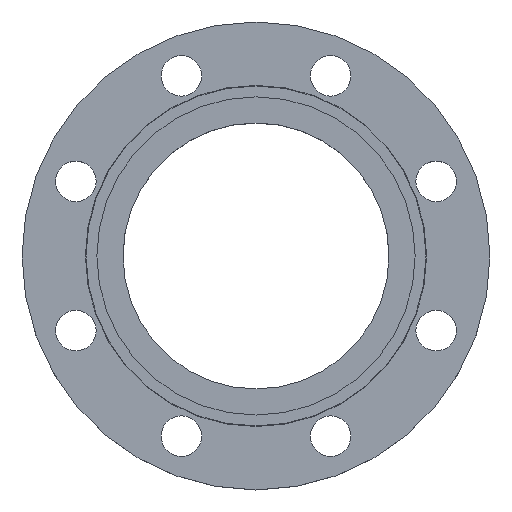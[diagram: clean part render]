
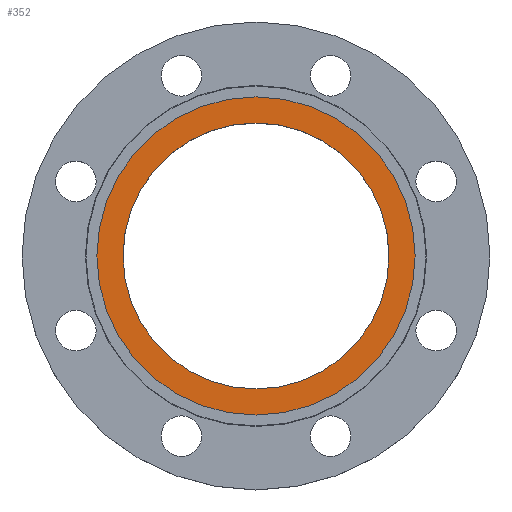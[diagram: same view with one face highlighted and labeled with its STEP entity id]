
A CAD part, top view. The second image highlights one B-rep face of the part: STEP entity #352.
In plain terms, the highlighted planar face has unit normal (0, 0, 1).
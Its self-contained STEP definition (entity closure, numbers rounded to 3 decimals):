
#2 = DIRECTION ( 'NONE',  ( 1., 0., 0. ) ) ;
#3 = DIRECTION ( 'NONE',  ( 0., 0., 1. ) ) ;
#4 = CARTESIAN_POINT ( 'NONE',  ( 102., 0., -4.5 ) ) ;
#5 = PLANE ( 'NONE',  #258 ) ;
#6 = FACE_OUTER_BOUND ( 'NONE', #208, .T. ) ;
#7 = FACE_BOUND ( 'NONE', #243, .T. ) ;
#45 = CIRCLE ( 'NONE', #99, 102. ) ;
#50 = AXIS2_PLACEMENT_3D ( 'NONE', #767, #708, #686 ) ;
#54 = CARTESIAN_POINT ( 'NONE',  ( -85.25, 0., -4.5 ) ) ;
#81 = CIRCLE ( 'NONE', #298, 85.25 ) ;
#93 = CARTESIAN_POINT ( 'NONE',  ( 0., 0., -4.5 ) ) ;
#97 = CIRCLE ( 'NONE', #50, 102. ) ;
#99 = AXIS2_PLACEMENT_3D ( 'NONE', #671, #662, #682 ) ;
#105 = DIRECTION ( 'NONE',  ( 0., 0., 1. ) ) ;
#201 = EDGE_CURVE ( 'NONE', #360, #359, #45, .T. ) ;
#208 = EDGE_LOOP ( 'NONE', ( #931, #932 ) ) ;
#218 = DIRECTION ( 'NONE',  ( 0., 0., 1. ) ) ;
#243 = EDGE_LOOP ( 'NONE', ( #928, #929 ) ) ;
#258 = AXIS2_PLACEMENT_3D ( 'NONE', #4, #3, #2 ) ;
#278 = EDGE_CURVE ( 'NONE', #384, #382, #441, .T. ) ;
#298 = AXIS2_PLACEMENT_3D ( 'NONE', #886, #218, #565 ) ;
#352 = ADVANCED_FACE ( 'NONE', ( #7, #6 ), #5, .T. ) ;
#359 = VERTEX_POINT ( 'NONE', #845 ) ;
#360 = VERTEX_POINT ( 'NONE', #837 ) ;
#382 = VERTEX_POINT ( 'NONE', #456 ) ;
#384 = VERTEX_POINT ( 'NONE', #54 ) ;
#441 = CIRCLE ( 'NONE', #442, 85.25 ) ;
#442 = AXIS2_PLACEMENT_3D ( 'NONE', #93, #105, #494 ) ;
#456 = CARTESIAN_POINT ( 'NONE',  ( 85.25, 0., -4.5 ) ) ;
#494 = DIRECTION ( 'NONE',  ( 1., 0., 0. ) ) ;
#565 = DIRECTION ( 'NONE',  ( 1., 0., 0. ) ) ;
#571 = EDGE_CURVE ( 'NONE', #359, #360, #97, .T. ) ;
#662 = DIRECTION ( 'NONE',  ( 0., 0., -1. ) ) ;
#671 = CARTESIAN_POINT ( 'NONE',  ( 0., 0., -4.5 ) ) ;
#682 = DIRECTION ( 'NONE',  ( -1., 0., 0. ) ) ;
#686 = DIRECTION ( 'NONE',  ( -1., 0., 0. ) ) ;
#708 = DIRECTION ( 'NONE',  ( 0., 0., -1. ) ) ;
#767 = CARTESIAN_POINT ( 'NONE',  ( 0., 0., -4.5 ) ) ;
#837 = CARTESIAN_POINT ( 'NONE',  ( 102., 0., -4.5 ) ) ;
#845 = CARTESIAN_POINT ( 'NONE',  ( -102., 0., -4.5 ) ) ;
#863 = EDGE_CURVE ( 'NONE', #382, #384, #81, .T. ) ;
#886 = CARTESIAN_POINT ( 'NONE',  ( 0., 0., -4.5 ) ) ;
#928 = ORIENTED_EDGE ( 'NONE', *, *, #863, .F. ) ;
#929 = ORIENTED_EDGE ( 'NONE', *, *, #278, .F. ) ;
#931 = ORIENTED_EDGE ( 'NONE', *, *, #571, .F. ) ;
#932 = ORIENTED_EDGE ( 'NONE', *, *, #201, .F. ) ;
